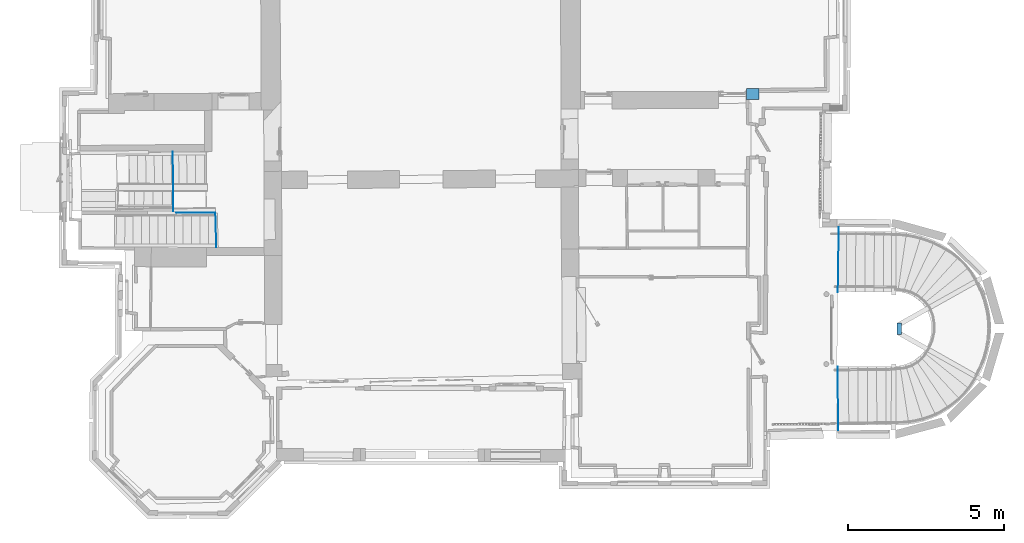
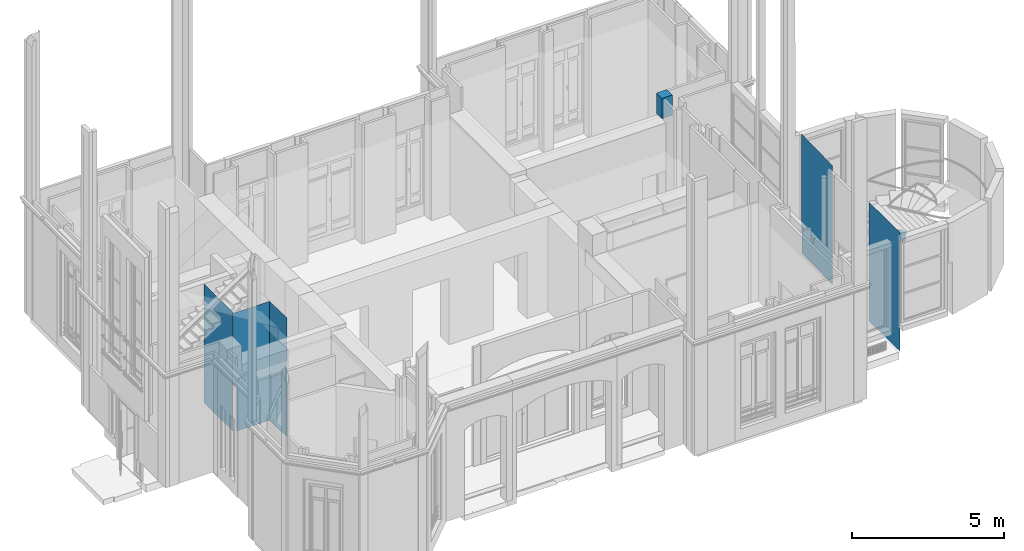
# One storey, part 25 of 97: 7 walls.
"""IFC2X3 building model written with IfcOpenShell, lengths in centimetres."""

from ifc_helpers import new_model, entity, si_unit, converted_unit, direction, frame, origin, origin_with_axes, place, context, subcontext, project, spatial, polyline, outline, extrude, faceted_brep, material, layer, layer_set, layer_usage, type_object, element, save


model = new_model("IFC2X3")

# Units and contexts
model_context = context("Model", 3, precision=0.0001, world=origin(), true_north=direction((0.225632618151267, 0.974212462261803, 0.0)))
body_context = subcontext(model_context, "Body", "Model", "MODEL_VIEW")
ifc_project = project(units=[si_unit("LENGTHUNIT", "METRE", prefix="CENTI"), si_unit("AREAUNIT", "SQUARE_METRE", prefix="CENTI"), si_unit("VOLUMEUNIT", "CUBIC_METRE", prefix="CENTI"), converted_unit("PLANEANGLEUNIT", "DEGREE", entity("IfcRatioMeasure", 0.0174532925), si_unit("PLANEANGLEUNIT", "RADIAN"), dimensions=[0, 0, 0, 0, 0, 0, 0])], contexts=[model_context])

# Site, building, storey
site_placement = place(None, origin_with_axes())
site = spatial("IfcSite", under=ifc_project, at=site_placement, Name="Default Site", CompositionType="ELEMENT")
building_placement = place(site_placement, origin_with_axes())
building = spatial("IfcBuilding", under=site, at=building_placement, Name="Default Building", CompositionType="ELEMENT")
storey_placement = place(building_placement, origin_with_axes())
storey = spatial("IfcBuildingStorey", under=building, at=storey_placement, Name="Rez-de-chaussée", CompositionType="ELEMENT", Elevation=0.0)

# Walls
ifc_material = material(Name="<aucun>")
ifc_layer_1 = layer(ifc_material, 0.0101999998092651)
ifc_layer_set_1 = layer_set([ifc_layer_1], Name="default")
ifc_layer_usage_1 = layer_usage(ifc_layer_set_1, "AXIS2", "POSITIVE", -0.0051)
wall_type_1 = type_object("IfcWallType", Name="default 0.101999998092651", PredefinedType="NOTDEFINED", material=ifc_layer_set_1)
wall_1_placement = place(storey_placement, frame((1122.63703735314, -872.835106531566, 0.0128503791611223), z_axis=(0.0, 0.0, 1.0), x_axis=(-0.00800409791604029, 0.999967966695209, 0.0)))
element("IfcWall", 1, at=wall_1_placement, inside=storey, type_object=wall_type_1, material=ifc_layer_usage_1, Name="Enveloppe fantôme 774241", context=body_context, shape_type="Brep", body=[
    faceted_brep([(203.273937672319, -4.54293669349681e-06, 179.987144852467), (203.273937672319, -4.54293669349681e-06, -4.62918603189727e-10), (1.71985873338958, -4.55871217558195e-06, -4.62918603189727e-10), (1.71985873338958, -4.55871217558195e-06, 179.987144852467), (1.71985873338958, 1.85673751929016e-05, 179.987144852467), (1.71985873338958, 1.85673751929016e-05, -4.62918603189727e-10), (203.273937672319, 1.85831506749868e-05, -4.62918603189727e-10), (203.273937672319, 1.85831506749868e-05, 179.987144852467), (1.71985873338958, 1.85673751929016e-05, 99.9871496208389), (0.248196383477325, 1.85672600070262e-05, 99.9871496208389), (0.248196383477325, 1.85672600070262e-05, 179.987144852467), (0.248196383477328, -2.76660813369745e-05, 99.9871496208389), (1.71985873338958, -2.7665966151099e-05, 99.9871496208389), (1.71985873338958, -2.7665966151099e-05, 179.987144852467), (0.248196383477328, -2.76660813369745e-05, 179.987144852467), (0.248196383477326, -4.55882736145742e-06, 179.987144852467), (0.248196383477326, -4.55882736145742e-06, 477.795339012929), (203.273937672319, -4.54293669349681e-06, 477.795339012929), (203.273937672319, -2.76501906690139e-05, 179.987144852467), (203.273937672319, -2.76501906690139e-05, 477.795339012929), (0.248196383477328, -2.76660813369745e-05, 477.795339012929)], [[[0, 1, 2, 3]], [[4, 5, 6, 7]], [[8, 9, 10, 4]], [[11, 12, 13, 14]], [[0, 3, 15, 16, 17]], [[14, 13, 18, 19, 20]]]),
])
ifc_layer_usage_2 = layer_usage(ifc_layer_set_1, "AXIS2", "POSITIVE", -0.0051)
wall_2_placement = place(storey_placement, frame((-871.10921685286, -176.678913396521, 0.0128503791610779), z_axis=(0.0, 0.0, 1.0), x_axis=(-0.999997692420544, 0.00214829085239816, 0.0)))
element("IfcWall", 2, at=wall_2_placement, inside=storey, type_object=wall_type_1, material=ifc_layer_usage_2, Name="Enveloppe fantôme 45749", context=body_context, shape_type="Brep", body=[
    faceted_brep([(124.784072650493, 1.02711479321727e-06, -4.62874180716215e-10), (-1.73170239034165e-05, 1.03302793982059e-06, -4.62874180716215e-10), (-1.73170239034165e-05, 1.03302793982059e-06, 199.987149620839), (124.784072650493, 1.02711479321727e-06, 199.987149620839), (124.784072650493, 1.02711479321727e-06, 185.87912359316), (-1.7317023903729e-05, -5.56248962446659e-06, -4.62874180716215e-10), (124.784072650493, -5.56840277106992e-06, -4.62874180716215e-10), (124.784072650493, -5.56840277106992e-06, 185.87912359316), (124.784072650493, -5.56840277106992e-06, 199.987149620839), (-1.7317023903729e-05, -5.56248962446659e-06, 199.987149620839), (136.454021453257, 1.7577848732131e-06, 185.87912359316), (124.784072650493, 1.75833787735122e-06, 185.87912359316), (124.784072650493, 1.75833787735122e-06, 199.987149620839), (136.454021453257, 1.7577848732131e-06, 199.987149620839), (136.454021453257, 1.02656178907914e-06, 185.87912359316), (136.454021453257, 1.02656178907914e-06, 199.987149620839), (-1.73170239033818e-05, 1.76425102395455e-06, 199.987149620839), (-1.73170239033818e-05, 1.76425102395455e-06, 477.795339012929), (136.454021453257, 1.7577848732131e-06, 477.795339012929), (136.454021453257, -5.56895577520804e-06, 199.987149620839), (136.454021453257, -5.56895577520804e-06, 477.795339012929), (-1.7317023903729e-05, -5.56248962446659e-06, 477.795339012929)], [[[0, 1, 2, 3, 4]], [[5, 6, 7, 8, 9]], [[10, 11, 12, 13]], [[4, 14, 15, 3]], [[13, 12, 16, 17, 18]], [[9, 8, 19, 20, 21]]]),
])
ifc_layer_usage_3 = layer_usage(ifc_layer_set_1, "AXIS2", "POSITIVE", -0.0051)
wall_3_placement = place(storey_placement, frame((-1005.96436642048, -170.900449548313, 0.0128503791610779), z_axis=(0.0, 0.0, 1.0), x_axis=(-0.00631419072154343, 0.99998006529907, 0.0)))
element("IfcWall", 3, at=wall_3_placement, inside=storey, type_object=wall_type_1, material=ifc_layer_usage_3, Name="Enveloppe fantôme 45464", context=body_context, shape_type="Brep", body=[
    faceted_brep([(189.354661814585, 8.1636864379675e-06, -4.6287418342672e-10), (-2.53734648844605e-06, 8.22431349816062e-06, -4.6287418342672e-10), (-2.53734648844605e-06, 8.22431349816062e-06, 477.795339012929), (189.354661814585, 8.1636864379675e-06, 477.795339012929), (-2.5373464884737e-06, 8.13793938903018e-06, -4.6287418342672e-10), (189.354661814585, 8.07731232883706e-06, -4.6287418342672e-10), (189.354661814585, 8.07731232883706e-06, 477.795339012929), (-2.5373464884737e-06, 8.13793938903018e-06, 477.795339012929)], [[[0, 1, 2, 3]], [[4, 5, 6, 7]]]),
])
ifc_layer_usage_4 = layer_usage(ifc_layer_set_1, "AXIS2", "POSITIVE", -0.0051)
wall_4_placement = place(storey_placement, frame((-867.862867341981, -287.063668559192, 0.0128503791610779), z_axis=(0.0, 0.0, 1.0), x_axis=(-0.0293966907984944, 0.999567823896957, 0.0)))
element("IfcWall", 4, at=wall_4_placement, inside=storey, type_object=wall_type_1, material=ifc_layer_usage_4, Name="Enveloppe fantôme 45882", context=body_context, shape_type="Brep", body=[
    faceted_brep([(110.432486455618, -1.74840554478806e-05, -4.6287418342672e-10), (-0.000143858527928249, -1.74989469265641e-05, -4.6287418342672e-10), (-0.000143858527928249, -1.74989469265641e-05, 477.795339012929), (110.432486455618, -1.74840554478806e-05, 477.795339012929), (-0.000143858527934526, 2.90504180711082e-05, -4.6287418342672e-10), (110.432486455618, 2.90653095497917e-05, -4.6287418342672e-10), (110.432486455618, 2.90653095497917e-05, 477.795339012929), (-0.000143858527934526, 2.90504180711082e-05, 477.795339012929)], [[[0, 1, 2, 3]], [[4, 5, 6, 7]]]),
])
ifc_layer_usage_5 = layer_usage(ifc_layer_set_1, "AXIS2", "POSITIVE", -0.0051)
wall_5_placement = place(storey_placement, frame((1121.49962025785, -430.618286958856, 0.0128503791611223), z_axis=(0.0, 0.0, 1.0), x_axis=(0.0146404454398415, 0.9998928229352, 0.0)))
element("IfcWall", 5, at=wall_5_placement, inside=storey, type_object=wall_type_1, material=ifc_layer_usage_5, Name="Enveloppe fantôme 773669", context=body_context, shape_type="Brep", body=[
    faceted_brep([(207.279773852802, -3.23570450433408e-05, 179.987144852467), (207.279773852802, -3.23570450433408e-05, -4.62918600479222e-10), (1.02405816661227e-06, -3.23020645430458e-05, -4.62918600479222e-10), (1.02405816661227e-06, -3.23020645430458e-05, 179.987144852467), (1.02405817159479e-06, -1.35176716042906e-05, 179.987144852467), (1.02405817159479e-06, -1.35176716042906e-05, -4.62918600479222e-10), (207.279773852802, -1.35726521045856e-05, -4.62918600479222e-10), (207.279773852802, -1.35726521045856e-05, 179.987144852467), (208.836718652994, -3.08076412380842e-05, 179.987144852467), (208.836718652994, -3.08076412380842e-05, 99.9871496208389), (207.279773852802, -3.0807228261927e-05, 99.9871496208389), (207.279773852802, -3.0807228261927e-05, 179.987144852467), (207.279773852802, -3.23570450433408e-05, 99.9871496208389), (208.836718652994, -3.2357458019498e-05, 99.9871496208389), (208.836718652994, -3.2357458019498e-05, 179.987144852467), (208.836718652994, -3.08076412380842e-05, 477.795339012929), (1.02405816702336e-06, -3.0752247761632e-05, 179.987144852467), (1.02405816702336e-06, -3.0752247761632e-05, 477.795339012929), (1.02405817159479e-06, -1.35176716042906e-05, 477.795339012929), (208.836718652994, -1.35730650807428e-05, 179.987144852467), (208.836718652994, -1.35730650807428e-05, 477.795339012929)], [[[0, 1, 2, 3]], [[4, 5, 6, 7]], [[8, 9, 10, 11]], [[0, 12, 13, 14]], [[15, 8, 16, 17]], [[18, 4, 19, 20]]]),
])
ifc_layer_2 = layer(ifc_material, 15.0)
ifc_layer_set_2 = layer_set([ifc_layer_2], Name="default")
ifc_layer_usage_6 = layer_usage(ifc_layer_set_2, "AXIS2", "POSITIVE", -7.5)
wall_type_2 = type_object("IfcWallType", Name="default 150", PredefinedType="NOTDEFINED", material=ifc_layer_set_2)
wall_6_placement = place(storey_placement, frame((1317.78974611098, -566.163351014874, 180.0), z_axis=(0.0, 0.0, 1.0), x_axis=(-0.00173256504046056, 0.999998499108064, 0.0)))
element("IfcWall", 6, at=wall_6_placement, inside=storey, type_object=wall_type_2, material=ifc_layer_usage_6, Name="Enveloppe 1700678", context=body_context, shape_type="Brep", body=[
    faceted_brep([(19.5731241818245, 7.50003205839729, -4.7683716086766e-06), (17.2394795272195, 7.50003205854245, -4.7683716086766e-06), (17.2394795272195, 7.50003205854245, 33.7953519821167), (19.5731241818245, 7.50003205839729, 33.8000011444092), (8.74241858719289, -7.49997479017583, -4.7683716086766e-06), (27.9496865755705, -7.49997479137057, -4.7683716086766e-06), (27.9496865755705, -7.49997479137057, 33.7953519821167), (8.74241858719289, -7.49997479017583, 33.8000011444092), (27.9496865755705, -7.49996939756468, -4.7683716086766e-06), (17.2394795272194, 7.4999744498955, -4.7683716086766e-06), (17.2394795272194, 7.4999744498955, 33.8000011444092), (27.9496865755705, -7.49996939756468, 33.8000011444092), (8.74242743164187, -7.49997980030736, -4.7683716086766e-06), (8.74242743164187, -7.49997980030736, 33.8000011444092), (19.5731047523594, 7.50002120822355, -4.7683716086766e-06), (19.5731047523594, 7.50002120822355, 33.8000011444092), (36.7535450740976, 7.50002050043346, 33.7953519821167), (36.7535442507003, -7.4999638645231, 33.7953519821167), (27.9496865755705, -7.49996939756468, 33.7953519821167), (19.5731241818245, 7.50003205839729, 33.7953519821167), (36.7535442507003, -7.4999638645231, 33.8000011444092), (36.7535450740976, 7.50002050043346, 33.8000011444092), (-2.15655123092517e-05, 7.49999300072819, 33.7953519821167), (17.2394795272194, 7.4999744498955, 33.7953519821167), (8.74241858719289, -7.49997479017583, 33.7953519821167), (-2.23889096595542e-05, -7.49999136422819, 33.7953519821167), (-2.23889096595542e-05, -7.49999136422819, 33.8000011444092), (-2.15655123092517e-05, 7.49999300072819, 33.8000011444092)], [[[0, 1, 2, 3]], [[4, 5, 6, 7]], [[0, 8, 4, 9]], [[10, 7, 11, 3]], [[9, 12, 13, 10]], [[8, 14, 15, 11]], [[16, 17, 18, 19]], [[3, 11, 20, 21]], [[22, 23, 24, 25]], [[26, 7, 10, 27]]]),
])
ifc_layer_3 = layer(ifc_material, 40.0)
ifc_layer_set_3 = layer_set([ifc_layer_3], Name="default")
ifc_layer_usage_7 = layer_usage(ifc_layer_set_3, "AXIS2", "POSITIVE", -20.0)
wall_type_3 = type_object("IfcWallType", Name="default 400", PredefinedType="NOTDEFINED", material=ifc_layer_set_3)
wall_7_placement = place(storey_placement, frame((848.462861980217, 185.587118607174, 0.0128503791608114), z_axis=(0.0, 0.0, 1.0), x_axis=(-0.00236515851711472, 0.999997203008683, 0.0)))
element("IfcWallStandardCase", 7, at=wall_7_placement, inside=storey, type_object=wall_type_3, material=ifc_layer_usage_7, Name="Enveloppe 9974", context=body_context, shape_type="SweptSolid", body=[
    extrude(outline(polyline([(35.9330072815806, 19.9999999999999), (0.0, 19.9999999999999), (-2.22044604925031e-14, -20.0000000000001), (36.2920809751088, -20.0000000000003), (35.9330072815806, 19.9999999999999)])), frame((0.0, 0.0, 395.995358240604), z_axis=(0.0, 0.0, 1.0), x_axis=(1.0, 0.0, 0.0)), (0.0, 0.0, 1.0), 81.8000000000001),
])

save(model, "model.ifc")
